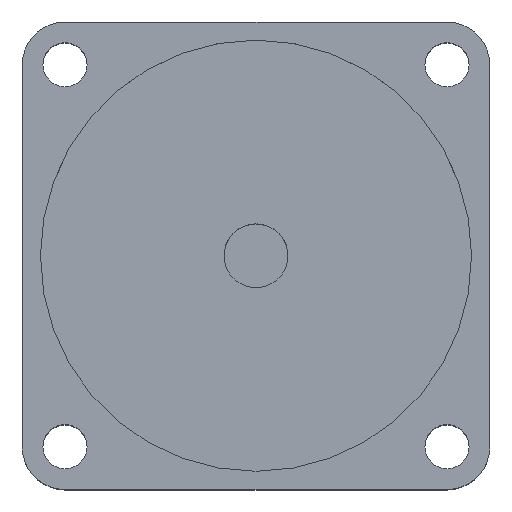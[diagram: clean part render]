
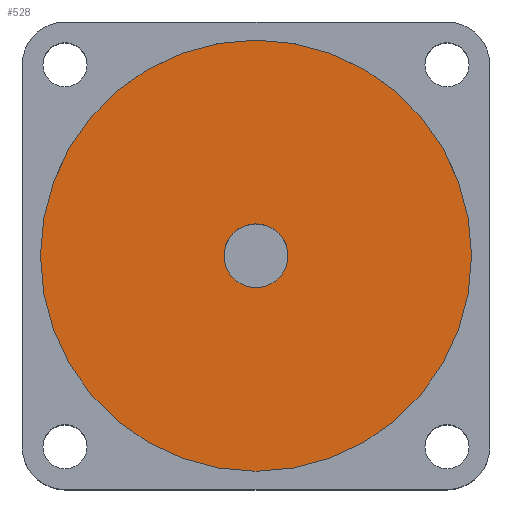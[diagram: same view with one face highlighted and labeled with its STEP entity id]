
A CAD part, top view. The second image highlights one B-rep face of the part: STEP entity #528.
In plain terms, the highlighted planar face has unit normal (0, 0, 1).
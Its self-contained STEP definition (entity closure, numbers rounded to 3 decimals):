
#62 = CIRCLE ( 'NONE', #1218, 6.15 ) ;
#110 = DIRECTION ( 'NONE',  ( 1., 0., 0. ) ) ;
#128 = VERTEX_POINT ( 'NONE', #951 ) ;
#138 = CARTESIAN_POINT ( 'NONE',  ( -6.15, 0., -2. ) ) ;
#174 = DIRECTION ( 'NONE',  ( 0., 0., 1. ) ) ;
#185 = CIRCLE ( 'NONE', #467, 41.5 ) ;
#252 = DIRECTION ( 'NONE',  ( 0., 0., -1. ) ) ;
#257 = CIRCLE ( 'NONE', #1529, 41.5 ) ;
#286 = EDGE_CURVE ( 'NONE', #1527, #327, #62, .T. ) ;
#292 = CARTESIAN_POINT ( 'NONE',  ( 0., 0., -2. ) ) ;
#297 = FACE_OUTER_BOUND ( 'NONE', #511, .T. ) ;
#319 = ORIENTED_EDGE ( 'NONE', *, *, #1388, .T. ) ;
#327 = VERTEX_POINT ( 'NONE', #1425 ) ;
#407 = DIRECTION ( 'NONE',  ( 0., 0., 1. ) ) ;
#440 = CARTESIAN_POINT ( 'NONE',  ( 41.5, 0., -2. ) ) ;
#467 = AXIS2_PLACEMENT_3D ( 'NONE', #572, #1048, #1542 ) ;
#511 = EDGE_LOOP ( 'NONE', ( #319, #1070 ) ) ;
#528 = ADVANCED_FACE ( 'NONE', ( #297, #908 ), #1146, .T. ) ;
#559 = ORIENTED_EDGE ( 'NONE', *, *, #286, .T. ) ;
#561 = AXIS2_PLACEMENT_3D ( 'NONE', #590, #252, #110 ) ;
#572 = CARTESIAN_POINT ( 'NONE',  ( 0., 0., -2. ) ) ;
#590 = CARTESIAN_POINT ( 'NONE',  ( 0., 0., -2. ) ) ;
#638 = DIRECTION ( 'NONE',  ( 1., 0., 0. ) ) ;
#837 = VERTEX_POINT ( 'NONE', #440 ) ;
#885 = EDGE_CURVE ( 'NONE', #327, #1527, #1496, .T. ) ;
#908 = FACE_BOUND ( 'NONE', #1413, .T. ) ;
#935 = DIRECTION ( 'NONE',  ( 0., 0., -1. ) ) ;
#951 = CARTESIAN_POINT ( 'NONE',  ( -41.5, 0., -2. ) ) ;
#1045 = EDGE_CURVE ( 'NONE', #128, #837, #257, .T. ) ;
#1048 = DIRECTION ( 'NONE',  ( 0., 0., 1. ) ) ;
#1070 = ORIENTED_EDGE ( 'NONE', *, *, #1045, .T. ) ;
#1146 = PLANE ( 'NONE',  #1271 ) ;
#1185 = CARTESIAN_POINT ( 'NONE',  ( 0., 0., -2. ) ) ;
#1218 = AXIS2_PLACEMENT_3D ( 'NONE', #1185, #935, #1534 ) ;
#1271 = AXIS2_PLACEMENT_3D ( 'NONE', #1389, #174, #1365 ) ;
#1299 = ORIENTED_EDGE ( 'NONE', *, *, #885, .T. ) ;
#1365 = DIRECTION ( 'NONE',  ( 1., 0., 0. ) ) ;
#1388 = EDGE_CURVE ( 'NONE', #837, #128, #185, .T. ) ;
#1389 = CARTESIAN_POINT ( 'NONE',  ( 0., 0., -2. ) ) ;
#1413 = EDGE_LOOP ( 'NONE', ( #1299, #559 ) ) ;
#1425 = CARTESIAN_POINT ( 'NONE',  ( 6.15, 0., -2. ) ) ;
#1496 = CIRCLE ( 'NONE', #561, 6.15 ) ;
#1527 = VERTEX_POINT ( 'NONE', #138 ) ;
#1529 = AXIS2_PLACEMENT_3D ( 'NONE', #292, #407, #638 ) ;
#1534 = DIRECTION ( 'NONE',  ( 1., 0., 0. ) ) ;
#1542 = DIRECTION ( 'NONE',  ( 1., 0., 0. ) ) ;
